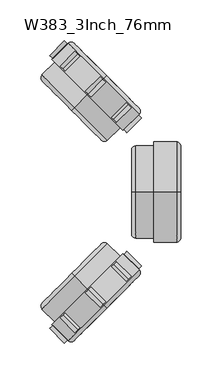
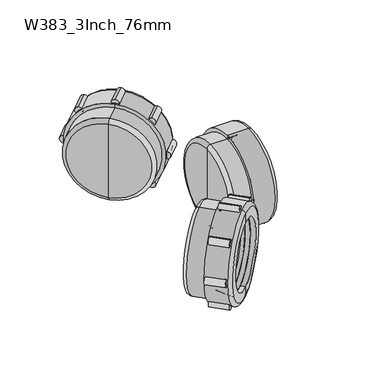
"""IFC4 building model written with IfcOpenShell, lengths in millimetres: pipe fitting geometry, Durapipe_PipeFitting_VulcatheneMechanical_DoubleWye_W38 : W383_3Inch_76mm."""

from ifc_helpers import new_model, si_unit, point, frame, frame_2d, origin, place, context, project, spatial, polyline, circle_curve, ellipse_curve, trimmed, segment, composite_curve, outline, extrude, source, transform, mapped, element, save
from ifc_brep_helpers import plane_surface, cylinder_surface, revolved_surface, advanced_brep


def w383_3inch_76mm_12d81fef(model_context):
    return source(origin(), model_context, "Body", "SolidModel", [
        advanced_brep(
        [(111.8701369, -162.7701369, -35.9917352), (115.1701369, -159.4701369, -31.3248304), (159.4701369, -115.1701369, 31.3248304), (162.7701369, -111.8701369, 35.9917352), (146.2158692, -99.7158692, 32.8804653), (99.7158692, -146.2158692, -32.8804653), (82.2503318, -128.7503318, -32.8804653), (128.7503318, -82.2503318, 32.8804653), (127.6503318, -83.3503318, 31.3248304), (83.3503318, -127.6503318, -31.3248304), (151.9040943, -107.6040943, 31.3248304), (107.6040943, -151.9040943, -31.3248304), (151.4540943, -108.0540943, 30.6884343), (108.0540943, -151.4540943, -30.6884343), (110.8567855, -155.1567855, -31.3248304), (111.3067855, -154.7067855, -30.6884343), (154.7067855, -111.3067855, 30.6884343), (155.1567855, -110.8567855, 31.3248304)],
        [
            (0, 1),
            (1, 2, circle_curve(frame((137.3201369, -137.3201369, 0.0), z_axis=(-0.7071067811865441, 0.7071067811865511, 0.0), x_axis=(0.5000000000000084, 0.49999999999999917, 0.7071067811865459)), 44.3)),
            (2, 3),
            (3, 0, circle_curve(frame((137.3201369, -137.3201369, 0.0), z_axis=(0.7071067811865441, -0.7071067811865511, 0.0), x_axis=(0.5000000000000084, 0.49999999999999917, 0.7071067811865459)), 50.9)),
            (2, 1, circle_curve(frame((137.3201369, -137.3201369, 0.0), z_axis=(-0.7071067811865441, 0.7071067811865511, 0.0), x_axis=(0.5000000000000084, 0.49999999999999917, 0.7071067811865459)), 44.3)),
            (0, 3, circle_curve(frame((137.3201369, -137.3201369, 0.0), z_axis=(0.7071067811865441, -0.7071067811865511, 0.0), x_axis=(0.5000000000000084, 0.49999999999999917, 0.7071067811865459)), 50.9)),
            (3, 4),
            (4, 5, circle_curve(frame((122.9658692, -122.9658692, 0.0), z_axis=(0.7071067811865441, -0.7071067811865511, 0.0), x_axis=(0.5000000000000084, 0.49999999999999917, 0.7071067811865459)), 46.5)),
            (5, 0),
            (5, 4, circle_curve(frame((122.9658692, -122.9658692, 0.0), z_axis=(0.7071067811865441, -0.7071067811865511, 0.0), x_axis=(0.5000000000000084, 0.49999999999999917, 0.7071067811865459)), 46.5)),
            (6, 5),
            (4, 7),
            (7, 6, circle_curve(frame((105.5003318, -105.5003318, 0.0), z_axis=(0.7071067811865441, -0.7071067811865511, 0.0), x_axis=(0.5000000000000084, 0.49999999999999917, 0.7071067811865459)), 46.5)),
            (6, 7, circle_curve(frame((105.5003318, -105.5003318, 0.0), z_axis=(0.7071067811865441, -0.7071067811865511, 0.0), x_axis=(0.5000000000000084, 0.49999999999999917, 0.7071067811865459)), 46.5)),
            (7, 8),
            (8, 9, circle_curve(frame((105.5003318, -105.5003318, 0.0), z_axis=(0.7071067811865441, -0.7071067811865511, 0.0), x_axis=(0.5000000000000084, 0.49999999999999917, 0.7071067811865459)), 44.3)),
            (9, 6),
            (9, 8, circle_curve(frame((105.5003318, -105.5003318, 0.0), z_axis=(0.7071067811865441, -0.7071067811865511, 0.0), x_axis=(0.5000000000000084, 0.49999999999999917, 0.7071067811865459)), 44.3)),
            (8, 10),
            (10, 11, circle_curve(frame((129.7540943, -129.7540943, 0.0), z_axis=(0.7071067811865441, -0.7071067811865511, 0.0), x_axis=(0.5000000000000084, 0.49999999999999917, 0.7071067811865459)), 44.3)),
            (11, 9),
            (11, 10, circle_curve(frame((129.7540943, -129.7540943, 0.0), z_axis=(0.7071067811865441, -0.7071067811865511, 0.0), x_axis=(0.5000000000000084, 0.49999999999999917, 0.7071067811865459)), 44.3)),
            (10, 12),
            (12, 13, circle_curve(frame((129.7540943, -129.7540943, 0.0), z_axis=(0.7071067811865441, -0.7071067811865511, 0.0), x_axis=(0.5000000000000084, 0.49999999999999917, 0.7071067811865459)), 43.4)),
            (13, 11),
            (13, 12, circle_curve(frame((129.7540943, -129.7540943, 0.0), z_axis=(0.7071067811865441, -0.7071067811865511, 0.0), x_axis=(0.5000000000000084, 0.49999999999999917, 0.7071067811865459)), 43.4)),
            (14, 15),
            (15, 16, circle_curve(frame((133.0067855, -133.0067855, 0.0), z_axis=(-0.7071067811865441, 0.7071067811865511, 0.0), x_axis=(0.5000000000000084, 0.49999999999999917, 0.7071067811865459)), 43.4)),
            (16, 17),
            (17, 14, circle_curve(frame((133.0067855, -133.0067855, 0.0), z_axis=(0.7071067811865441, -0.7071067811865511, 0.0), x_axis=(0.5000000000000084, 0.49999999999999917, 0.7071067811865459)), 44.3)),
            (16, 15, circle_curve(frame((133.0067855, -133.0067855, 0.0), z_axis=(-0.7071067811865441, 0.7071067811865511, 0.0), x_axis=(0.5000000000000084, 0.49999999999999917, 0.7071067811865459)), 43.4)),
            (14, 17, circle_curve(frame((133.0067855, -133.0067855, 0.0), z_axis=(0.7071067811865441, -0.7071067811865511, 0.0), x_axis=(0.5000000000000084, 0.49999999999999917, 0.7071067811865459)), 44.3)),
            (1, 14),
            (17, 2),
            (12, 16),
            (15, 13),
        ],
        [
            plane_surface(frame((137.3201369, -137.3201369, 0.0), z_axis=(0.7071067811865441, -0.707106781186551, 0.0), x_axis=(0.5000000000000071, 0.49999999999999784, 0.707106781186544))),
            revolved_surface(polyline([(162.7701369, -111.8701369, 35.9917352), (146.2158692, -99.7158692, 32.8804653)]), (140.8556708, -140.8556708, 0.0), (-0.7071067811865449, 0.7071067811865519, 0.0)),
            cylinder_surface(frame((104.0361571, -104.0361571, 0.0), z_axis=(-0.7071067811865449, 0.7071067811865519, 0.0), x_axis=(0.5000000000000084, 0.49999999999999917, 0.7071067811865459)), 46.5),
            plane_surface(frame((105.5003318, -105.5003318, 0.0), z_axis=(-0.7071067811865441, 0.707106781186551, 0.0), x_axis=(0.5000000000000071, 0.49999999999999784, 0.707106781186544))),
            revolved_surface(polyline([(127.65033180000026, -83.35033179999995, 31.324830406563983), (151.90409430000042, -107.60409430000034, 31.324830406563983)]), (103.0304142, -103.0304142, 0.0), (-0.7071067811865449, 0.7071067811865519, 0.0)),
            plane_surface(frame((129.7540943, -129.7540943, 0.0), z_axis=(-0.7071067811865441, 0.707106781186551, 0.0), x_axis=(0.5000000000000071, 0.49999999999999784, 0.707106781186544))),
            plane_surface(frame((133.0067855, -133.0067855, 0.0), z_axis=(0.7071067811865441, -0.707106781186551, 0.0), x_axis=(0.5000000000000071, 0.49999999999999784, 0.707106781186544))),
            revolved_surface(polyline([(155.1567855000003, -110.85678549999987, 31.324830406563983), (159.47013690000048, -115.17013690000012, 31.324830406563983)]), (140.8556708, -140.8556708, 0.0), (-0.7071067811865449, 0.7071067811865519, 0.0)),
            revolved_surface(polyline([(151.4540943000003, -108.05409429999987, 30.68843430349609), (154.70678550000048, -111.3067855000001, 30.68843430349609)]), (138.4276022, -138.4276022, 0.0), (-0.7071067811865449, 0.7071067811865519, 0.0)),
        ],
        [
            (0, [[1, 2, 3, 4]]),
            (0, [[5, -1, 6, -3]]),
            (1, [[7, 8, 9, -4]]),
            (1, [[-9, 10, -7, -6]]),
            (2, [[11, -8, 12, 13]]),
            (2, [[-10, -11, 14, -12]]),
            (3, [[15, 16, 17, -13]]),
            (3, [[-17, 18, -15, -14]]),
            (4, [[-16, 19, 20, 21]]),
            (4, [[22, -19, -18, -21]]),
            (5, [[23, 24, 25, -20]]),
            (5, [[-25, 26, -23, -22]]),
            (6, [[27, 28, 29, 30]]),
            (6, [[-29, 31, -27, 32]]),
            (7, [[33, -30, 34, -2]]),
            (7, [[-34, -32, -33, -5]]),
            (8, [[-24, 35, -28, 36]]),
            (8, [[-31, -35, -26, -36]]),
        ],
    ),
        advanced_brep(
        [(118.4403858, -118.4403858, -61.5), (138.2393757, -138.2393757, -61.5), (138.2393757, -138.2393757, 61.5), (118.4403858, -118.4403858, 61.5), (118.4403858, -118.4403858, -56.5), (118.4403858, -118.4403858, 56.5), (141.7749096, -141.7749096, -56.5), (141.7749096, -141.7749096, -45.0), (141.7749096, -141.7749096, 45.0), (141.7749096, -141.7749096, 56.5), (137.3201369, -137.3201369, -53.0), (118.4403858, -118.4403858, -53.0), (118.4403858, -118.4403858, 53.0), (137.3201369, -137.3201369, 53.0), (137.3201369, -137.3201369, -45.0), (137.3201369, -137.3201369, 45.0), (102.8840367, -102.8840367, -56.5), (102.8840367, -102.8840367, 56.5), (99.3485028, -99.3485028, -51.5), (99.3485028, -99.3485028, 51.5), (99.3485028, -99.3485028, 0.0), (118.4403858, -118.4403858, 0.0)],
        [
            (0, 1),
            (1, 2, circle_curve(frame((138.2393757, -138.2393757, 0.0), z_axis=(-0.7071067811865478, 0.7071067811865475, 0.0), x_axis=(0.0, 0.0, 1.0000000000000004)), 61.5)),
            (2, 3),
            (3, 0, circle_curve(frame((118.4403858, -118.4403858, 0.0), z_axis=(0.7071067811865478, -0.7071067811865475, 0.0), x_axis=(0.0, 0.0, 1.0000000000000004)), 61.5)),
            (2, 1, circle_curve(frame((138.2393757, -138.2393757, 0.0), z_axis=(-0.7071067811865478, 0.7071067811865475, 0.0), x_axis=(0.0, 0.0, 1.0000000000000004)), 61.5)),
            (0, 3, circle_curve(frame((118.4403858, -118.4403858, 0.0), z_axis=(0.7071067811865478, -0.7071067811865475, 0.0), x_axis=(0.0, 0.0, 1.0000000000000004)), 61.5)),
            (4, 0),
            (3, 5),
            (5, 4, circle_curve(frame((118.4403858, -118.4403858, 0.0), z_axis=(0.7071067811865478, -0.7071067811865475, 0.0), x_axis=(0.0, 0.0, 1.0000000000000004)), 56.5)),
            (4, 5, circle_curve(frame((118.4403858, -118.4403858, 0.0), z_axis=(0.7071067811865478, -0.7071067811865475, 0.0), x_axis=(0.0, 0.0, 1.0000000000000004)), 56.5)),
            (6, 7),
            (7, 8, circle_curve(frame((141.7749096, -141.7749096, 0.0), z_axis=(-0.7071067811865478, 0.7071067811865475, 0.0), x_axis=(0.0, 0.0, 1.0000000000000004)), 45.0)),
            (8, 9),
            (9, 6, circle_curve(frame((141.7749096, -141.7749096, 0.0), z_axis=(0.7071067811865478, -0.7071067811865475, 0.0), x_axis=(0.0, 0.0, 1.0000000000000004)), 56.5)),
            (8, 7, circle_curve(frame((141.7749096, -141.7749096, 0.0), z_axis=(-0.7071067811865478, 0.7071067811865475, 0.0), x_axis=(0.0, 0.0, 1.0000000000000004)), 45.0)),
            (6, 9, circle_curve(frame((141.7749096, -141.7749096, 0.0), z_axis=(0.7071067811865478, -0.7071067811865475, 0.0), x_axis=(0.0, 0.0, 1.0000000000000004)), 56.5)),
            (1, 6, circle_curve(frame((138.2393757, -138.2393757, -56.5), z_axis=(-0.7071067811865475, -0.7071067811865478, 0.0), x_axis=(0.7071067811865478, -0.7071067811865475, 0.0)), 5.0)),
            (9, 2, circle_curve(frame((138.2393757, -138.2393757, 56.5), z_axis=(-0.7071067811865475, -0.7071067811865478, 0.0), x_axis=(0.7071067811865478, -0.7071067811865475, 0.0)), 5.0)),
            (10, 11),
            (11, 12, circle_curve(frame((118.4403858, -118.4403858, 0.0), z_axis=(-0.7071067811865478, 0.7071067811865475, 0.0), x_axis=(0.0, 0.0, 1.0000000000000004)), 53.0)),
            (12, 13),
            (13, 10, circle_curve(frame((137.3201369, -137.3201369, 0.0), z_axis=(0.7071067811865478, -0.7071067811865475, 0.0), x_axis=(0.0, 0.0, 1.0000000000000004)), 53.0)),
            (12, 11, circle_curve(frame((118.4403858, -118.4403858, 0.0), z_axis=(-0.7071067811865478, 0.7071067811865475, 0.0), x_axis=(0.0, 0.0, 1.0000000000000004)), 53.0)),
            (10, 13, circle_curve(frame((137.3201369, -137.3201369, 0.0), z_axis=(0.7071067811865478, -0.7071067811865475, 0.0), x_axis=(0.0, 0.0, 1.0000000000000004)), 53.0)),
            (14, 10),
            (13, 15),
            (15, 14, circle_curve(frame((137.3201369, -137.3201369, 0.0), z_axis=(0.7071067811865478, -0.7071067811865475, 0.0), x_axis=(0.0, 0.0, 1.0000000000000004)), 45.0)),
            (14, 15, circle_curve(frame((137.3201369, -137.3201369, 0.0), z_axis=(0.7071067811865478, -0.7071067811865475, 0.0), x_axis=(0.0, 0.0, 1.0000000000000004)), 45.0)),
            (7, 14),
            (15, 8),
            (16, 4),
            (5, 17),
            (17, 16, circle_curve(frame((102.8840367, -102.8840367, 0.0), z_axis=(0.7071067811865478, -0.7071067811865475, 0.0), x_axis=(0.0, 0.0, 1.0000000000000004)), 56.5)),
            (16, 17, circle_curve(frame((102.8840367, -102.8840367, 0.0), z_axis=(0.7071067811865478, -0.7071067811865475, 0.0), x_axis=(0.0, 0.0, 1.0000000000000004)), 56.5)),
            (18, 16, circle_curve(frame((102.8840367, -102.8840367, -51.5), z_axis=(-0.7071067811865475, -0.7071067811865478, 0.0), x_axis=(0.7071067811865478, -0.7071067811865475, 0.0)), 5.0)),
            (17, 19, circle_curve(frame((102.8840367, -102.8840367, 51.5), z_axis=(-0.7071067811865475, -0.7071067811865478, 0.0), x_axis=(0.7071067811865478, -0.7071067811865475, 0.0)), 5.0)),
            (19, 18, circle_curve(frame((99.3485028, -99.3485028, 0.0), z_axis=(0.7071067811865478, -0.7071067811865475, 0.0), x_axis=(0.0, 0.0, 1.0000000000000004)), 51.5)),
            (18, 19, circle_curve(frame((99.3485028, -99.3485028, 0.0), z_axis=(0.7071067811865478, -0.7071067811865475, 0.0), x_axis=(0.0, 0.0, 1.0000000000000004)), 51.5)),
            (20, 18),
            (19, 20),
            (11, 21),
            (21, 12),
        ],
        [
            cylinder_surface(frame((1245.4284595, -1245.4284595, 0.0), z_axis=(-0.7071067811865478, 0.7071067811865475, 0.0), x_axis=(0.0, 0.0, 1.0000000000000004)), 61.5),
            plane_surface(frame((118.4403858, -118.4403858, 0.0), z_axis=(-0.7071067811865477, 0.7071067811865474, 0.0), x_axis=(0.0, 0.0, 1.0))),
            plane_surface(frame((141.7749096, -141.7749096, 0.0), z_axis=(0.7071067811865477, -0.7071067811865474, 0.0), x_axis=(0.0, 0.0, 1.0))),
            revolved_surface(trimmed(ellipse_curve(frame((138.2393757, -138.2393757, 56.5), z_axis=(-0.7071067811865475, -0.7071067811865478, 0.0), x_axis=(0.7071067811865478, -0.7071067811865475, 0.0)), 5.0, 5.0), [point((141.7749096, -141.7749096, 56.5))], [point((138.2393757, -138.2393757, 61.5))], True, "CARTESIAN"), (1245.4284595, -1245.4284595, 0.0), (-0.7071067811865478, 0.7071067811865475, 0.0)),
            revolved_surface(polyline([(118.44038579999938, -118.44038580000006, 53.00000000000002), (137.3201368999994, -137.32013690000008, 53.00000000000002)]), (1245.4284595, -1245.4284595, 0.0), (-0.7071067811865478, 0.7071067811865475, 0.0)),
            plane_surface(frame((137.3201369, -137.3201369, 0.0), z_axis=(-0.7071067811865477, 0.7071067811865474, 0.0), x_axis=(0.0, 0.0, 1.0))),
            revolved_surface(polyline([(137.3201368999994, -137.32013690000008, 45.00000000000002), (141.77490959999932, -141.77490959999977, 45.00000000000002)]), (1245.4284595, -1245.4284595, 0.0), (-0.7071067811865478, 0.7071067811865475, 0.0)),
            cylinder_surface(frame((1245.4284595, -1245.4284595, 0.0), z_axis=(-0.7071067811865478, 0.7071067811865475, 0.0), x_axis=(0.0, 0.0, 1.0000000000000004)), 56.5),
            revolved_surface(trimmed(ellipse_curve(frame((102.8840367, -102.8840367, 51.5), z_axis=(-0.7071067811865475, -0.7071067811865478, 0.0), x_axis=(0.7071067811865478, -0.7071067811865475, 0.0)), 5.0, 5.0), [point((102.8840367, -102.8840367, 56.5))], [point((99.3485028, -99.3485028, 51.5))], True, "CARTESIAN"), (1245.4284595, -1245.4284595, 0.0), (-0.7071067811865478, 0.7071067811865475, 0.0)),
            plane_surface(frame((99.3485028, -99.3485028, 0.0), z_axis=(-0.7071067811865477, 0.7071067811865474, 0.0), x_axis=(0.0, 0.0, 1.0))),
            plane_surface(frame((118.4403858, -118.4403858, 0.0), z_axis=(0.7071067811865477, -0.7071067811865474, 0.0), x_axis=(0.0, 0.0, 1.0))),
        ],
        [
            (0, [[1, 2, 3, 4]]),
            (0, [[-3, 5, -1, 6]]),
            (1, [[7, -4, 8, 9]]),
            (1, [[-8, -6, -7, 10]]),
            (2, [[11, 12, 13, 14]]),
            (2, [[-13, 15, -11, 16]]),
            (3, [[17, -14, 18, -2]]),
            (3, [[-18, -16, -17, -5]]),
            (4, [[19, 20, 21, 22]]),
            (4, [[-21, 23, -19, 24]]),
            (5, [[25, -22, 26, 27]]),
            (5, [[-26, -24, -25, 28]]),
            (6, [[29, -27, 30, -12]]),
            (6, [[-30, -28, -29, -15]]),
            (7, [[31, -9, 32, 33]]),
            (7, [[-32, -10, -31, 34]]),
            (8, [[35, -33, 36, 37]]),
            (8, [[-36, -34, -35, 38]]),
            (9, [[39, -37, 40]]),
            (9, [[-40, -38, -39]]),
            (10, [[41, 42, -20]]),
            (10, [[-42, -41, -23]]),
        ],
    ),
        extrude(outline(composite_curve([segment(trimmed(circle_curve(frame_2d((0.0, 5.0)), 5.0), [point((0.0, 10.0))], [point((0.0, 0.0))], False, "CARTESIAN"), True, "CONTINUOUS"), segment(trimmed(circle_curve(frame_2d((0.0, 5.0)), 5.0), [point((0.0, 0.0))], [point((0.0, 10.0))], False, "CARTESIAN"), True, "CONTINUOUS")], self_intersect=False)), frame((180.8072039, -93.8330699, 5.0), z_axis=(-0.7071067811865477, 0.7071067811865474, 0.0), x_axis=(0.7071067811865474, 0.7071067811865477, 0.0)), (0.0, 0.0, 1.0), 25.2),
        extrude(outline(composite_curve([segment(trimmed(circle_curve(frame_2d((-18.0129329, -38.487067)), 5.0), [point((-18.0129329, -33.487067))], [point((-18.0129329, -43.487067))], False, "CARTESIAN"), True, "CONTINUOUS"), segment(trimmed(circle_curve(frame_2d((-18.0129329, -38.487067)), 5.0), [point((-18.0129329, -43.487067))], [point((-18.0129329, -33.487067))], False, "CARTESIAN"), True, "CONTINUOUS")], self_intersect=False)), frame((180.8072039, -93.8330699, 5.0), z_axis=(-0.7071067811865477, 0.7071067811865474, 0.0), x_axis=(0.7071067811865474, 0.7071067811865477, 0.0)), (0.0, 0.0, 1.0), 25.2),
        extrude(outline(composite_curve([segment(trimmed(circle_curve(frame_2d((-61.4999999, -56.5)), 5.0), [point((-61.4999999, -51.5))], [point((-61.4999999, -61.5))], False, "CARTESIAN"), True, "CONTINUOUS"), segment(trimmed(circle_curve(frame_2d((-61.4999999, -56.5)), 5.0), [point((-61.4999999, -61.5))], [point((-61.4999999, -51.5))], False, "CARTESIAN"), True, "CONTINUOUS")], self_intersect=False)), frame((180.8072039, -93.8330699, 5.0), z_axis=(-0.7071067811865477, 0.7071067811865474, 0.0), x_axis=(0.7071067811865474, 0.7071067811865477, 0.0)), (0.0, 0.0, 1.0), 25.2),
        extrude(outline(composite_curve([segment(trimmed(circle_curve(frame_2d((-104.987067, -38.487067)), 5.0), [point((-104.987067, -33.487067))], [point((-104.987067, -43.487067))], False, "CARTESIAN"), True, "CONTINUOUS"), segment(trimmed(circle_curve(frame_2d((-104.987067, -38.487067)), 5.0), [point((-104.987067, -43.487067))], [point((-104.987067, -33.487067))], False, "CARTESIAN"), True, "CONTINUOUS")], self_intersect=False)), frame((180.8072039, -93.8330699, 5.0), z_axis=(-0.7071067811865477, 0.7071067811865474, 0.0), x_axis=(0.7071067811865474, 0.7071067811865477, 0.0)), (0.0, 0.0, 1.0), 25.2),
        extrude(outline(composite_curve([segment(trimmed(circle_curve(frame_2d((-122.9999999, 5.0)), 5.0), [point((-122.9999999, 10.0))], [point((-122.9999999, 0.0))], False, "CARTESIAN"), True, "CONTINUOUS"), segment(trimmed(circle_curve(frame_2d((-122.9999999, 5.0)), 5.0), [point((-122.9999999, 0.0))], [point((-122.9999999, 10.0))], False, "CARTESIAN"), True, "CONTINUOUS")], self_intersect=False)), frame((180.8072039, -93.8330699, 5.0), z_axis=(-0.7071067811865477, 0.7071067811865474, 0.0), x_axis=(0.7071067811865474, 0.7071067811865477, 0.0)), (0.0, 0.0, 1.0), 25.2),
        extrude(outline(composite_curve([segment(trimmed(circle_curve(frame_2d((-104.987067, 48.487067)), 5.0), [point((-104.987067, 53.487067))], [point((-104.987067, 43.487067))], False, "CARTESIAN"), True, "CONTINUOUS"), segment(trimmed(circle_curve(frame_2d((-104.987067, 48.487067)), 5.0), [point((-104.987067, 43.487067))], [point((-104.987067, 53.487067))], False, "CARTESIAN"), True, "CONTINUOUS")], self_intersect=False)), frame((180.8072039, -93.8330699, 5.0), z_axis=(-0.7071067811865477, 0.7071067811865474, 0.0), x_axis=(0.7071067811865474, 0.7071067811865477, 0.0)), (0.0, 0.0, 1.0), 25.2),
        extrude(outline(composite_curve([segment(trimmed(circle_curve(frame_2d((-61.4999999, 66.5)), 5.0), [point((-61.4999999, 71.5))], [point((-61.4999999, 61.5))], False, "CARTESIAN"), True, "CONTINUOUS"), segment(trimmed(circle_curve(frame_2d((-61.4999999, 66.5)), 5.0), [point((-61.4999999, 61.5))], [point((-61.4999999, 71.5))], False, "CARTESIAN"), True, "CONTINUOUS")], self_intersect=False)), frame((180.8072039, -93.8330699, 5.0), z_axis=(-0.7071067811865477, 0.7071067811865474, 0.0), x_axis=(0.7071067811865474, 0.7071067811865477, 0.0)), (0.0, 0.0, 1.0), 25.2),
        extrude(outline(composite_curve([segment(trimmed(circle_curve(frame_2d((-18.0129329, 48.487067)), 5.0), [point((-18.0129329, 53.487067))], [point((-18.0129329, 43.487067))], False, "CARTESIAN"), True, "CONTINUOUS"), segment(trimmed(circle_curve(frame_2d((-18.0129329, 48.487067)), 5.0), [point((-18.0129329, 43.487067))], [point((-18.0129329, 53.487067))], False, "CARTESIAN"), True, "CONTINUOUS")], self_intersect=False)), frame((180.8072039, -93.8330699, 5.0), z_axis=(-0.7071067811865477, 0.7071067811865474, 0.0), x_axis=(0.7071067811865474, 0.7071067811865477, 0.0)), (0.0, 0.0, 1.0), 25.2),
        advanced_brep(
        [(162.7701369, 111.8701369, -35.9917352), (159.4701369, 115.1701369, -31.3248304), (115.1701369, 159.4701369, 31.3248304), (111.8701369, 162.7701369, 35.9917352), (99.7158692, 146.2158692, 32.8804653), (146.2158692, 99.7158692, -32.8804653), (128.7503318, 82.2503318, -32.8804653), (82.2503318, 128.7503318, 32.8804653), (83.3503318, 127.6503318, 31.3248304), (127.6503318, 83.3503318, -31.3248304), (107.6040943, 151.9040943, 31.3248304), (151.9040943, 107.6040943, -31.3248304), (108.0540943, 151.4540943, 30.6884343), (151.4540943, 108.0540943, -30.6884343), (155.1567855, 110.8567855, -31.3248304), (154.7067855, 111.3067855, -30.6884343), (111.3067855, 154.7067855, 30.6884343), (110.8567855, 155.1567855, 31.3248304)],
        [
            (0, 1),
            (1, 2, circle_curve(frame((137.3201369, 137.3201369, 0.0), z_axis=(-0.7071067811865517, -0.7071067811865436, 0.0), x_axis=(-0.4999999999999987, 0.5000000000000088, 0.7071067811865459)), 44.3)),
            (2, 3),
            (3, 0, circle_curve(frame((137.3201369, 137.3201369, 0.0), z_axis=(0.7071067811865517, 0.7071067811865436, 0.0), x_axis=(-0.4999999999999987, 0.5000000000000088, 0.7071067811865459)), 50.9)),
            (2, 1, circle_curve(frame((137.3201369, 137.3201369, 0.0), z_axis=(-0.7071067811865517, -0.7071067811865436, 0.0), x_axis=(-0.4999999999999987, 0.5000000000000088, 0.7071067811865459)), 44.3)),
            (0, 3, circle_curve(frame((137.3201369, 137.3201369, 0.0), z_axis=(0.7071067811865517, 0.7071067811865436, 0.0), x_axis=(-0.4999999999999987, 0.5000000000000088, 0.7071067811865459)), 50.9)),
            (3, 4),
            (4, 5, circle_curve(frame((122.9658692, 122.9658692, 0.0), z_axis=(0.7071067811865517, 0.7071067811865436, 0.0), x_axis=(-0.4999999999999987, 0.5000000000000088, 0.7071067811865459)), 46.5)),
            (5, 0),
            (5, 4, circle_curve(frame((122.9658692, 122.9658692, 0.0), z_axis=(0.7071067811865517, 0.7071067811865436, 0.0), x_axis=(-0.4999999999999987, 0.5000000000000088, 0.7071067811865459)), 46.5)),
            (6, 5),
            (4, 7),
            (7, 6, circle_curve(frame((105.5003318, 105.5003318, 0.0), z_axis=(0.7071067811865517, 0.7071067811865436, 0.0), x_axis=(-0.4999999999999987, 0.5000000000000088, 0.7071067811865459)), 46.5)),
            (6, 7, circle_curve(frame((105.5003318, 105.5003318, 0.0), z_axis=(0.7071067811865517, 0.7071067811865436, 0.0), x_axis=(-0.4999999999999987, 0.5000000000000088, 0.7071067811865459)), 46.5)),
            (7, 8),
            (8, 9, circle_curve(frame((105.5003318, 105.5003318, 0.0), z_axis=(0.7071067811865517, 0.7071067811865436, 0.0), x_axis=(-0.4999999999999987, 0.5000000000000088, 0.7071067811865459)), 44.3)),
            (9, 6),
            (9, 8, circle_curve(frame((105.5003318, 105.5003318, 0.0), z_axis=(0.7071067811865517, 0.7071067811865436, 0.0), x_axis=(-0.4999999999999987, 0.5000000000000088, 0.7071067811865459)), 44.3)),
            (8, 10),
            (10, 11, circle_curve(frame((129.7540943, 129.7540943, 0.0), z_axis=(0.7071067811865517, 0.7071067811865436, 0.0), x_axis=(-0.4999999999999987, 0.5000000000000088, 0.7071067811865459)), 44.3)),
            (11, 9),
            (11, 10, circle_curve(frame((129.7540943, 129.7540943, 0.0), z_axis=(0.7071067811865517, 0.7071067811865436, 0.0), x_axis=(-0.4999999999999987, 0.5000000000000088, 0.7071067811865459)), 44.3)),
            (10, 12),
            (12, 13, circle_curve(frame((129.7540943, 129.7540943, 0.0), z_axis=(0.7071067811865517, 0.7071067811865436, 0.0), x_axis=(-0.4999999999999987, 0.5000000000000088, 0.7071067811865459)), 43.4)),
            (13, 11),
            (13, 12, circle_curve(frame((129.7540943, 129.7540943, 0.0), z_axis=(0.7071067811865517, 0.7071067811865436, 0.0), x_axis=(-0.4999999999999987, 0.5000000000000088, 0.7071067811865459)), 43.4)),
            (14, 15),
            (15, 16, circle_curve(frame((133.0067855, 133.0067855, 0.0), z_axis=(-0.7071067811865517, -0.7071067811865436, 0.0), x_axis=(-0.4999999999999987, 0.5000000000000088, 0.7071067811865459)), 43.4)),
            (16, 17),
            (17, 14, circle_curve(frame((133.0067855, 133.0067855, 0.0), z_axis=(0.7071067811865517, 0.7071067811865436, 0.0), x_axis=(-0.4999999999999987, 0.5000000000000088, 0.7071067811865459)), 44.3)),
            (16, 15, circle_curve(frame((133.0067855, 133.0067855, 0.0), z_axis=(-0.7071067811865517, -0.7071067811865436, 0.0), x_axis=(-0.4999999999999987, 0.5000000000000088, 0.7071067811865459)), 43.4)),
            (14, 17, circle_curve(frame((133.0067855, 133.0067855, 0.0), z_axis=(0.7071067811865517, 0.7071067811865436, 0.0), x_axis=(-0.4999999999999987, 0.5000000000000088, 0.7071067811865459)), 44.3)),
            (1, 14),
            (17, 2),
            (12, 16),
            (15, 13),
        ],
        [
            plane_surface(frame((137.3201369, 137.3201369, 0.0), z_axis=(0.7071067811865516, 0.7071067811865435, 0.0), x_axis=(-0.4999999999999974, 0.5000000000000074, 0.707106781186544))),
            revolved_surface(polyline([(111.8701369, 162.7701369, 35.9917352), (99.7158692, 146.2158692, 32.8804653)]), (140.8556708, 140.8556708, 0.0), (-0.7071067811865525, -0.7071067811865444, 0.0)),
            cylinder_surface(frame((104.0361571, 104.0361571, 0.0), z_axis=(-0.7071067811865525, -0.7071067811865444, 0.0), x_axis=(-0.4999999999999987, 0.5000000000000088, 0.7071067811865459)), 46.5),
            plane_surface(frame((105.5003318, 105.5003318, 0.0), z_axis=(-0.7071067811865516, -0.7071067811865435, 0.0), x_axis=(-0.4999999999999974, 0.5000000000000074, 0.707106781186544))),
            revolved_surface(polyline([(83.35033179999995, 127.65033180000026, 31.324830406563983), (107.6040943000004, 151.90409430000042, 31.324830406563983)]), (103.0304142, 103.0304142, 0.0), (-0.7071067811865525, -0.7071067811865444, 0.0)),
            plane_surface(frame((129.7540943, 129.7540943, 0.0), z_axis=(-0.7071067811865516, -0.7071067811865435, 0.0), x_axis=(-0.4999999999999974, 0.5000000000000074, 0.707106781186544))),
            plane_surface(frame((133.0067855, 133.0067855, 0.0), z_axis=(0.7071067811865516, 0.7071067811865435, 0.0), x_axis=(-0.4999999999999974, 0.5000000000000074, 0.707106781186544))),
            revolved_surface(polyline([(110.85678549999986, 155.15678550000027, 31.324830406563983), (115.17013690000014, 159.4701369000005, 31.324830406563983)]), (140.8556708, 140.8556708, 0.0), (-0.7071067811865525, -0.7071067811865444, 0.0)),
            revolved_surface(polyline([(108.05409429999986, 151.4540943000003, 30.68843430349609), (111.30678550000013, 154.70678550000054, 30.68843430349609)]), (138.4276022, 138.4276022, 0.0), (-0.7071067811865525, -0.7071067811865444, 0.0)),
        ],
        [
            (0, [[1, 2, 3, 4]]),
            (0, [[5, -1, 6, -3]]),
            (1, [[7, 8, 9, -4]]),
            (1, [[-9, 10, -7, -6]]),
            (2, [[11, -8, 12, 13]]),
            (2, [[-10, -11, 14, -12]]),
            (3, [[15, 16, 17, -13]]),
            (3, [[-17, 18, -15, -14]]),
            (4, [[-16, 19, 20, 21]]),
            (4, [[22, -19, -18, -21]]),
            (5, [[23, 24, 25, -20]]),
            (5, [[-25, 26, -23, -22]]),
            (6, [[27, 28, 29, 30]]),
            (6, [[-29, 31, -27, 32]]),
            (7, [[33, -30, 34, -2]]),
            (7, [[-34, -32, -33, -5]]),
            (8, [[-24, 35, -28, 36]]),
            (8, [[-31, -35, -26, -36]]),
        ],
    ),
        advanced_brep(
        [(118.4403858, 118.4403858, -61.5), (138.2393757, 138.2393757, -61.5), (138.2393757, 138.2393757, 61.5), (118.4403858, 118.4403858, 61.5), (118.4403858, 118.4403858, -56.5), (118.4403858, 118.4403858, 56.5), (141.7749096, 141.7749096, -56.5), (141.7749096, 141.7749096, -45.0), (141.7749096, 141.7749096, 45.0), (141.7749096, 141.7749096, 56.5), (137.3201369, 137.3201369, -53.0), (118.4403858, 118.4403858, -53.0), (118.4403858, 118.4403858, 53.0), (137.3201369, 137.3201369, 53.0), (137.3201369, 137.3201369, -45.0), (137.3201369, 137.3201369, 45.0), (102.8840367, 102.8840367, -56.5), (102.8840367, 102.8840367, 56.5), (99.3485028, 99.3485028, -51.5), (99.3485028, 99.3485028, 51.5), (99.3485028, 99.3485028, 0.0), (118.4403858, 118.4403858, 0.0)],
        [
            (0, 1),
            (1, 2, circle_curve(frame((138.2393757, 138.2393757, 0.0), z_axis=(-0.707106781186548, -0.7071067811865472, 0.0), x_axis=(0.0, 0.0, 1.0000000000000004)), 61.5)),
            (2, 3),
            (3, 0, circle_curve(frame((118.4403858, 118.4403858, 0.0), z_axis=(0.707106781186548, 0.7071067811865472, 0.0), x_axis=(0.0, 0.0, 1.0000000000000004)), 61.5)),
            (2, 1, circle_curve(frame((138.2393757, 138.2393757, 0.0), z_axis=(-0.707106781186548, -0.7071067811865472, 0.0), x_axis=(0.0, 0.0, 1.0000000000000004)), 61.5)),
            (0, 3, circle_curve(frame((118.4403858, 118.4403858, 0.0), z_axis=(0.707106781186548, 0.7071067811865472, 0.0), x_axis=(0.0, 0.0, 1.0000000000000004)), 61.5)),
            (4, 0),
            (3, 5),
            (5, 4, circle_curve(frame((118.4403858, 118.4403858, 0.0), z_axis=(0.707106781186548, 0.7071067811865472, 0.0), x_axis=(0.0, 0.0, 1.0000000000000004)), 56.5)),
            (4, 5, circle_curve(frame((118.4403858, 118.4403858, 0.0), z_axis=(0.707106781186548, 0.7071067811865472, 0.0), x_axis=(0.0, 0.0, 1.0000000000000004)), 56.5)),
            (6, 7),
            (7, 8, circle_curve(frame((141.7749096, 141.7749096, 0.0), z_axis=(-0.707106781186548, -0.7071067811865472, 0.0), x_axis=(0.0, 0.0, 1.0000000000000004)), 45.0)),
            (8, 9),
            (9, 6, circle_curve(frame((141.7749096, 141.7749096, 0.0), z_axis=(0.707106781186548, 0.7071067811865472, 0.0), x_axis=(0.0, 0.0, 1.0000000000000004)), 56.5)),
            (8, 7, circle_curve(frame((141.7749096, 141.7749096, 0.0), z_axis=(-0.707106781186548, -0.7071067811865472, 0.0), x_axis=(0.0, 0.0, 1.0000000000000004)), 45.0)),
            (6, 9, circle_curve(frame((141.7749096, 141.7749096, 0.0), z_axis=(0.707106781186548, 0.7071067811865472, 0.0), x_axis=(0.0, 0.0, 1.0000000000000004)), 56.5)),
            (1, 6, circle_curve(frame((138.2393757, 138.2393757, -56.5), z_axis=(0.7071067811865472, -0.707106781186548, 0.0), x_axis=(0.707106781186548, 0.7071067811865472, 0.0)), 5.0)),
            (9, 2, circle_curve(frame((138.2393757, 138.2393757, 56.5), z_axis=(0.7071067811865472, -0.707106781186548, 0.0), x_axis=(0.707106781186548, 0.7071067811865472, 0.0)), 5.0)),
            (10, 11),
            (11, 12, circle_curve(frame((118.4403858, 118.4403858, 0.0), z_axis=(-0.707106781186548, -0.7071067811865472, 0.0), x_axis=(0.0, 0.0, 1.0000000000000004)), 53.0)),
            (12, 13),
            (13, 10, circle_curve(frame((137.3201369, 137.3201369, 0.0), z_axis=(0.707106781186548, 0.7071067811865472, 0.0), x_axis=(0.0, 0.0, 1.0000000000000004)), 53.0)),
            (12, 11, circle_curve(frame((118.4403858, 118.4403858, 0.0), z_axis=(-0.707106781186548, -0.7071067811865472, 0.0), x_axis=(0.0, 0.0, 1.0000000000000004)), 53.0)),
            (10, 13, circle_curve(frame((137.3201369, 137.3201369, 0.0), z_axis=(0.707106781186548, 0.7071067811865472, 0.0), x_axis=(0.0, 0.0, 1.0000000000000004)), 53.0)),
            (14, 10),
            (13, 15),
            (15, 14, circle_curve(frame((137.3201369, 137.3201369, 0.0), z_axis=(0.707106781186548, 0.7071067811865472, 0.0), x_axis=(0.0, 0.0, 1.0000000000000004)), 45.0)),
            (14, 15, circle_curve(frame((137.3201369, 137.3201369, 0.0), z_axis=(0.707106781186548, 0.7071067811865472, 0.0), x_axis=(0.0, 0.0, 1.0000000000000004)), 45.0)),
            (7, 14),
            (15, 8),
            (16, 4),
            (5, 17),
            (17, 16, circle_curve(frame((102.8840367, 102.8840367, 0.0), z_axis=(0.707106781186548, 0.7071067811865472, 0.0), x_axis=(0.0, 0.0, 1.0000000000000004)), 56.5)),
            (16, 17, circle_curve(frame((102.8840367, 102.8840367, 0.0), z_axis=(0.707106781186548, 0.7071067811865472, 0.0), x_axis=(0.0, 0.0, 1.0000000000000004)), 56.5)),
            (18, 16, circle_curve(frame((102.8840367, 102.8840367, -51.5), z_axis=(0.7071067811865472, -0.707106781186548, 0.0), x_axis=(0.707106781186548, 0.7071067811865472, 0.0)), 5.0)),
            (17, 19, circle_curve(frame((102.8840367, 102.8840367, 51.5), z_axis=(0.7071067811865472, -0.707106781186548, 0.0), x_axis=(0.707106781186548, 0.7071067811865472, 0.0)), 5.0)),
            (19, 18, circle_curve(frame((99.3485028, 99.3485028, 0.0), z_axis=(0.707106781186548, 0.7071067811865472, 0.0), x_axis=(0.0, 0.0, 1.0000000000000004)), 51.5)),
            (18, 19, circle_curve(frame((99.3485028, 99.3485028, 0.0), z_axis=(0.707106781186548, 0.7071067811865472, 0.0), x_axis=(0.0, 0.0, 1.0000000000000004)), 51.5)),
            (20, 18),
            (19, 20),
            (11, 21),
            (21, 12),
        ],
        [
            cylinder_surface(frame((1245.4284595, 1245.4284595, 0.0), z_axis=(-0.707106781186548, -0.7071067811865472, 0.0), x_axis=(0.0, 0.0, 1.0000000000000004)), 61.5),
            plane_surface(frame((118.4403858, 118.4403858, 0.0), z_axis=(-0.7071067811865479, -0.7071067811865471, 0.0), x_axis=(0.0, 0.0, 1.0))),
            plane_surface(frame((141.7749096, 141.7749096, 0.0), z_axis=(0.7071067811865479, 0.7071067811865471, 0.0), x_axis=(0.0, 0.0, 1.0))),
            revolved_surface(trimmed(ellipse_curve(frame((138.2393757, 138.2393757, 56.5), z_axis=(0.7071067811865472, -0.707106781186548, 0.0), x_axis=(0.707106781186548, 0.7071067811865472, 0.0)), 5.0, 5.0), [point((141.7749096, 141.7749096, 56.5))], [point((138.2393757, 138.2393757, 61.5))], True, "CARTESIAN"), (1245.4284595, 1245.4284595, 0.0), (-0.707106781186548, -0.7071067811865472, 0.0)),
            revolved_surface(polyline([(118.44038579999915, 118.44038580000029, 53.00000000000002), (137.32013689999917, 137.3201369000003, 53.00000000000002)]), (1245.4284595, 1245.4284595, 0.0), (-0.707106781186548, -0.7071067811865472, 0.0)),
            plane_surface(frame((137.3201369, 137.3201369, 0.0), z_axis=(-0.7071067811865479, -0.7071067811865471, 0.0), x_axis=(0.0, 0.0, 1.0))),
            revolved_surface(polyline([(137.32013689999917, 137.3201369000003, 45.00000000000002), (141.7749095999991, 141.77490960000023, 45.00000000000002)]), (1245.4284595, 1245.4284595, 0.0), (-0.707106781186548, -0.7071067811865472, 0.0)),
            cylinder_surface(frame((1245.4284595, 1245.4284595, 0.0), z_axis=(-0.707106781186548, -0.7071067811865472, 0.0), x_axis=(0.0, 0.0, 1.0000000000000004)), 56.5),
            revolved_surface(trimmed(ellipse_curve(frame((102.8840367, 102.8840367, 51.5), z_axis=(0.7071067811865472, -0.707106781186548, 0.0), x_axis=(0.707106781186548, 0.7071067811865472, 0.0)), 5.0, 5.0), [point((102.8840367, 102.8840367, 56.5))], [point((99.3485028, 99.3485028, 51.5))], True, "CARTESIAN"), (1245.4284595, 1245.4284595, 0.0), (-0.707106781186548, -0.7071067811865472, 0.0)),
            plane_surface(frame((99.3485028, 99.3485028, 0.0), z_axis=(-0.7071067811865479, -0.7071067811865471, 0.0), x_axis=(0.0, 0.0, 1.0))),
            plane_surface(frame((118.4403858, 118.4403858, 0.0), z_axis=(0.7071067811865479, 0.7071067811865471, 0.0), x_axis=(0.0, 0.0, 1.0))),
        ],
        [
            (0, [[1, 2, 3, 4]]),
            (0, [[-3, 5, -1, 6]]),
            (1, [[7, -4, 8, 9]]),
            (1, [[-8, -6, -7, 10]]),
            (2, [[11, 12, 13, 14]]),
            (2, [[-13, 15, -11, 16]]),
            (3, [[17, -14, 18, -2]]),
            (3, [[-18, -16, -17, -5]]),
            (4, [[19, 20, 21, 22]]),
            (4, [[-21, 23, -19, 24]]),
            (5, [[25, -22, 26, 27]]),
            (5, [[-26, -24, -25, 28]]),
            (6, [[29, -27, 30, -12]]),
            (6, [[-30, -28, -29, -15]]),
            (7, [[31, -9, 32, 33]]),
            (7, [[-32, -10, -31, 34]]),
            (8, [[35, -33, 36, 37]]),
            (8, [[-36, -34, -35, 38]]),
            (9, [[39, -37, 40]]),
            (9, [[-40, -38, -39]]),
            (10, [[41, 42, -20]]),
            (10, [[-42, -41, -23]]),
        ],
    ),
        extrude(outline(composite_curve([segment(trimmed(circle_curve(frame_2d((0.0, 5.0)), 5.0), [point((0.0, 10.0))], [point((0.0, 0.0))], False, "CARTESIAN"), True, "CONTINUOUS"), segment(trimmed(circle_curve(frame_2d((0.0, 5.0)), 5.0), [point((0.0, 0.0))], [point((0.0, 10.0))], False, "CARTESIAN"), True, "CONTINUOUS")], self_intersect=False)), frame((76.013979, 162.9881131, 5.0), z_axis=(0.7071067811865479, 0.7071067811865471, 0.0), x_axis=(0.7071067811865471, -0.7071067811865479, 0.0)), (0.0, 0.0, 1.0), 25.2),
        extrude(outline(composite_curve([segment(trimmed(circle_curve(frame_2d((18.012933, -38.487067)), 5.0), [point((18.012933, -33.487067))], [point((18.012933, -43.487067))], False, "CARTESIAN"), True, "CONTINUOUS"), segment(trimmed(circle_curve(frame_2d((18.012933, -38.487067)), 5.0), [point((18.012933, -43.487067))], [point((18.012933, -33.487067))], False, "CARTESIAN"), True, "CONTINUOUS")], self_intersect=False)), frame((76.013979, 162.9881131, 5.0), z_axis=(0.7071067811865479, 0.7071067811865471, 0.0), x_axis=(0.7071067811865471, -0.7071067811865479, 0.0)), (0.0, 0.0, 1.0), 25.2),
        extrude(outline(composite_curve([segment(trimmed(circle_curve(frame_2d((61.5, -56.5)), 5.0), [point((61.5, -51.5))], [point((61.5, -61.5))], False, "CARTESIAN"), True, "CONTINUOUS"), segment(trimmed(circle_curve(frame_2d((61.5, -56.5)), 5.0), [point((61.5, -61.5))], [point((61.5, -51.5))], False, "CARTESIAN"), True, "CONTINUOUS")], self_intersect=False)), frame((76.013979, 162.9881131, 5.0), z_axis=(0.7071067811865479, 0.7071067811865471, 0.0), x_axis=(0.7071067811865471, -0.7071067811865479, 0.0)), (0.0, 0.0, 1.0), 25.2),
        extrude(outline(composite_curve([segment(trimmed(circle_curve(frame_2d((104.9870671, -38.487067)), 5.0), [point((104.9870671, -33.487067))], [point((104.9870671, -43.487067))], False, "CARTESIAN"), True, "CONTINUOUS"), segment(trimmed(circle_curve(frame_2d((104.9870671, -38.487067)), 5.0), [point((104.9870671, -43.487067))], [point((104.9870671, -33.487067))], False, "CARTESIAN"), True, "CONTINUOUS")], self_intersect=False)), frame((76.013979, 162.9881131, 5.0), z_axis=(0.7071067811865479, 0.7071067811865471, 0.0), x_axis=(0.7071067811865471, -0.7071067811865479, 0.0)), (0.0, 0.0, 1.0), 25.2),
        extrude(outline(composite_curve([segment(trimmed(circle_curve(frame_2d((123.0, 5.0)), 5.0), [point((123.0, 10.0))], [point((123.0, 0.0))], False, "CARTESIAN"), True, "CONTINUOUS"), segment(trimmed(circle_curve(frame_2d((123.0, 5.0)), 5.0), [point((123.0, 0.0))], [point((123.0, 10.0))], False, "CARTESIAN"), True, "CONTINUOUS")], self_intersect=False)), frame((76.013979, 162.9881131, 5.0), z_axis=(0.7071067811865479, 0.7071067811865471, 0.0), x_axis=(0.7071067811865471, -0.7071067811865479, 0.0)), (0.0, 0.0, 1.0), 25.2),
        extrude(outline(composite_curve([segment(trimmed(circle_curve(frame_2d((104.9870671, 48.487067)), 5.0), [point((104.9870671, 53.487067))], [point((104.9870671, 43.487067))], False, "CARTESIAN"), True, "CONTINUOUS"), segment(trimmed(circle_curve(frame_2d((104.9870671, 48.487067)), 5.0), [point((104.9870671, 43.487067))], [point((104.9870671, 53.487067))], False, "CARTESIAN"), True, "CONTINUOUS")], self_intersect=False)), frame((76.013979, 162.9881131, 5.0), z_axis=(0.7071067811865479, 0.7071067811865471, 0.0), x_axis=(0.7071067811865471, -0.7071067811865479, 0.0)), (0.0, 0.0, 1.0), 25.2),
        extrude(outline(composite_curve([segment(trimmed(circle_curve(frame_2d((61.5, 66.5)), 5.0), [point((61.5, 71.5))], [point((61.5, 61.5))], False, "CARTESIAN"), True, "CONTINUOUS"), segment(trimmed(circle_curve(frame_2d((61.5, 66.5)), 5.0), [point((61.5, 61.5))], [point((61.5, 71.5))], False, "CARTESIAN"), True, "CONTINUOUS")], self_intersect=False)), frame((76.013979, 162.9881131, 5.0), z_axis=(0.7071067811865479, 0.7071067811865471, 0.0), x_axis=(0.7071067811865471, -0.7071067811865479, 0.0)), (0.0, 0.0, 1.0), 25.2),
        extrude(outline(composite_curve([segment(trimmed(circle_curve(frame_2d((18.012933, 48.487067)), 5.0), [point((18.012933, 53.487067))], [point((18.012933, 43.487067))], False, "CARTESIAN"), True, "CONTINUOUS"), segment(trimmed(circle_curve(frame_2d((18.012933, 48.487067)), 5.0), [point((18.012933, 43.487067))], [point((18.012933, 53.487067))], False, "CARTESIAN"), True, "CONTINUOUS")], self_intersect=False)), frame((76.013979, 162.9881131, 5.0), z_axis=(0.7071067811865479, 0.7071067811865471, 0.0), x_axis=(0.7071067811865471, -0.7071067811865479, 0.0)), (0.0, 0.0, 1.0), 25.2),
        advanced_brep(
        [(225.9, 35.9917352, 35.9917352), (225.9, 31.3248304, 31.3248304), (225.9, -31.3248304, -31.3248304), (225.9, -35.9917352, -35.9917352), (205.6, -32.8804653, -32.8804653), (205.6, 32.8804653, 32.8804653), (180.9, 32.8804653, 32.8804653), (180.9, -32.8804653, -32.8804653), (180.9, -31.3248304, -31.3248304), (180.9, 31.3248304, 31.3248304), (215.2, -31.3248304, -31.3248304), (215.2, 31.3248304, 31.3248304), (215.2, -30.6884343, -30.6884343), (215.2, 30.6884343, 30.6884343), (219.8, 31.3248304, 31.3248304), (219.8, 30.6884343, 30.6884343), (219.8, -30.6884343, -30.6884343), (219.8, -31.3248304, -31.3248304)],
        [
            (0, 1),
            (1, 2, circle_curve(frame((225.9, 0.0, 0.0), z_axis=(-1.0, 0.0, 0.0), x_axis=(0.0, -0.7071067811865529, -0.7071067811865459)), 44.3)),
            (2, 3),
            (3, 0, circle_curve(frame((225.9, 0.0, 0.0), z_axis=(1.0, 0.0, 0.0), x_axis=(0.0, -0.7071067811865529, -0.7071067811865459)), 50.9)),
            (2, 1, circle_curve(frame((225.9, 0.0, 0.0), z_axis=(-1.0, 0.0, 0.0), x_axis=(0.0, -0.7071067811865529, -0.7071067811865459)), 44.3)),
            (0, 3, circle_curve(frame((225.9, 0.0, 0.0), z_axis=(1.0, 0.0, 0.0), x_axis=(0.0, -0.7071067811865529, -0.7071067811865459)), 50.9)),
            (3, 4),
            (4, 5, circle_curve(frame((205.6, 0.0, 0.0), z_axis=(1.0, 0.0, 0.0), x_axis=(0.0, -0.7071067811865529, -0.7071067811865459)), 46.5)),
            (5, 0),
            (5, 4, circle_curve(frame((205.6, 0.0, 0.0), z_axis=(1.0, 0.0, 0.0), x_axis=(0.0, -0.7071067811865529, -0.7071067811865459)), 46.5)),
            (6, 5),
            (4, 7),
            (7, 6, circle_curve(frame((180.9, 0.0, 0.0), z_axis=(1.0, 0.0, 0.0), x_axis=(0.0, -0.7071067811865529, -0.7071067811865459)), 46.5)),
            (6, 7, circle_curve(frame((180.9, 0.0, 0.0), z_axis=(1.0, 0.0, 0.0), x_axis=(0.0, -0.7071067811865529, -0.7071067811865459)), 46.5)),
            (7, 8),
            (8, 9, circle_curve(frame((180.9, 0.0, 0.0), z_axis=(1.0, 0.0, 0.0), x_axis=(0.0, -0.7071067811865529, -0.7071067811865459)), 44.3)),
            (9, 6),
            (9, 8, circle_curve(frame((180.9, 0.0, 0.0), z_axis=(1.0, 0.0, 0.0), x_axis=(0.0, -0.7071067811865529, -0.7071067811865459)), 44.3)),
            (8, 10),
            (10, 11, circle_curve(frame((215.2, 0.0, 0.0), z_axis=(1.0, 0.0, 0.0), x_axis=(0.0, -0.7071067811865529, -0.7071067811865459)), 44.3)),
            (11, 9),
            (11, 10, circle_curve(frame((215.2, 0.0, 0.0), z_axis=(1.0, 0.0, 0.0), x_axis=(0.0, -0.7071067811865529, -0.7071067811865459)), 44.3)),
            (10, 12),
            (12, 13, circle_curve(frame((215.2, 0.0, 0.0), z_axis=(1.0, 0.0, 0.0), x_axis=(0.0, -0.7071067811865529, -0.7071067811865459)), 43.4)),
            (13, 11),
            (13, 12, circle_curve(frame((215.2, 0.0, 0.0), z_axis=(1.0, 0.0, 0.0), x_axis=(0.0, -0.7071067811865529, -0.7071067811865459)), 43.4)),
            (14, 15),
            (15, 16, circle_curve(frame((219.8, 0.0, 0.0), z_axis=(-1.0, 0.0, 0.0), x_axis=(0.0, -0.7071067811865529, -0.7071067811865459)), 43.4)),
            (16, 17),
            (17, 14, circle_curve(frame((219.8, 0.0, 0.0), z_axis=(1.0, 0.0, 0.0), x_axis=(0.0, -0.7071067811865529, -0.7071067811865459)), 44.3)),
            (16, 15, circle_curve(frame((219.8, 0.0, 0.0), z_axis=(-1.0, 0.0, 0.0), x_axis=(0.0, -0.7071067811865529, -0.7071067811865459)), 43.4)),
            (14, 17, circle_curve(frame((219.8, 0.0, 0.0), z_axis=(1.0, 0.0, 0.0), x_axis=(0.0, -0.7071067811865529, -0.7071067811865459)), 44.3)),
            (1, 14),
            (17, 2),
            (12, 16),
            (15, 13),
        ],
        [
            plane_surface(frame((225.9, 0.0, 0.0), z_axis=(1.0, 0.0, 0.0), x_axis=(0.0, -0.707106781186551, -0.707106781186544))),
            revolved_surface(polyline([(225.9, -35.9917352, -35.9917352), (205.6, -32.8804653, -32.8804653)]), (230.9, 0.0, 0.0), (-1.0000000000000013, 0.0, 0.0)),
            cylinder_surface(frame((178.8293443, 0.0, 0.0), z_axis=(-1.0000000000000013, 0.0, 0.0), x_axis=(0.0, -0.7071067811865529, -0.7071067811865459)), 46.5),
            plane_surface(frame((180.9, 0.0, 0.0), z_axis=(-1.0, 0.0, 0.0), x_axis=(0.0, -0.707106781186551, -0.707106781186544))),
            revolved_surface(polyline([(180.9, -31.324830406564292, -31.324830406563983), (215.2000000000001, -31.324830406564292, -31.324830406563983)]), (177.407009, 0.0, 0.0), (-1.0000000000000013, 0.0, 0.0)),
            plane_surface(frame((215.2, 0.0, 0.0), z_axis=(-1.0, 0.0, 0.0), x_axis=(0.0, -0.707106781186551, -0.707106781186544))),
            plane_surface(frame((219.8, 0.0, 0.0), z_axis=(1.0, 0.0, 0.0), x_axis=(0.0, -0.707106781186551, -0.707106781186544))),
            revolved_surface(polyline([(219.79999999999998, -31.324830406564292, -31.324830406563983), (225.89999999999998, -31.324830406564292, -31.324830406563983)]), (230.9, 0.0, 0.0), (-1.0000000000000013, 0.0, 0.0)),
            revolved_surface(polyline([(215.19999999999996, -30.688434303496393, -30.68843430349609), (219.79999999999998, -30.688434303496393, -30.68843430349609)]), (227.4661924, 0.0, 0.0), (-1.0000000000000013, 0.0, 0.0)),
        ],
        [
            (0, [[1, 2, 3, 4]]),
            (0, [[5, -1, 6, -3]]),
            (1, [[7, 8, 9, -4]]),
            (1, [[-9, 10, -7, -6]]),
            (2, [[11, -8, 12, 13]]),
            (2, [[-10, -11, 14, -12]]),
            (3, [[15, 16, 17, -13]]),
            (3, [[-17, 18, -15, -14]]),
            (4, [[-16, 19, 20, 21]]),
            (4, [[22, -19, -18, -21]]),
            (5, [[23, 24, 25, -20]]),
            (5, [[-25, 26, -23, -22]]),
            (6, [[27, 28, 29, 30]]),
            (6, [[-29, 31, -27, 32]]),
            (7, [[33, -30, 34, -2]]),
            (7, [[-34, -32, -33, -5]]),
            (8, [[-24, 35, -28, 36]]),
            (8, [[-31, -35, -26, -36]]),
        ],
    ),
        advanced_brep(
        [(199.2, 0.0, 61.5), (227.2, 0.0, 61.5), (227.2, 0.0, -61.5), (199.2, 0.0, -61.5), (199.2, 0.0, 56.5), (199.2, 0.0, -56.5), (232.2, 0.0, 56.5), (232.2, 0.0, 45.0), (232.2, 0.0, -45.0), (232.2, 0.0, -56.5), (225.9, 0.0, 53.0), (199.2, 0.0, 53.0), (199.2, 0.0, -53.0), (225.9, 0.0, -53.0), (225.9, 0.0, 45.0), (225.9, 0.0, -45.0), (177.2, 0.0, 56.5), (177.2, 0.0, -56.5), (172.2, 0.0, 51.5), (172.2, 0.0, -51.5), (172.2, 0.0, 0.0), (199.2, 0.0, 0.0)],
        [
            (0, 1),
            (1, 2, circle_curve(frame((227.2, 0.0, 0.0), z_axis=(-1.0, 0.0, 0.0), x_axis=(0.0, 0.0, -1.0000000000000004)), 61.5)),
            (2, 3),
            (3, 0, circle_curve(frame((199.2, 0.0, 0.0), z_axis=(1.0, 0.0, 0.0), x_axis=(0.0, 0.0, -1.0000000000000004)), 61.5)),
            (2, 1, circle_curve(frame((227.2, 0.0, 0.0), z_axis=(-1.0, 0.0, 0.0), x_axis=(0.0, 0.0, -1.0000000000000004)), 61.5)),
            (0, 3, circle_curve(frame((199.2, 0.0, 0.0), z_axis=(1.0, 0.0, 0.0), x_axis=(0.0, 0.0, -1.0000000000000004)), 61.5)),
            (4, 0),
            (3, 5),
            (5, 4, circle_curve(frame((199.2, 0.0, 0.0), z_axis=(1.0, 0.0, 0.0), x_axis=(0.0, 0.0, -1.0000000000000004)), 56.5)),
            (4, 5, circle_curve(frame((199.2, 0.0, 0.0), z_axis=(1.0, 0.0, 0.0), x_axis=(0.0, 0.0, -1.0000000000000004)), 56.5)),
            (6, 7),
            (7, 8, circle_curve(frame((232.2, 0.0, 0.0), z_axis=(-1.0, 0.0, 0.0), x_axis=(0.0, 0.0, -1.0000000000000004)), 45.0)),
            (8, 9),
            (9, 6, circle_curve(frame((232.2, 0.0, 0.0), z_axis=(1.0, 0.0, 0.0), x_axis=(0.0, 0.0, -1.0000000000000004)), 56.5)),
            (8, 7, circle_curve(frame((232.2, 0.0, 0.0), z_axis=(-1.0, 0.0, 0.0), x_axis=(0.0, 0.0, -1.0000000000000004)), 45.0)),
            (6, 9, circle_curve(frame((232.2, 0.0, 0.0), z_axis=(1.0, 0.0, 0.0), x_axis=(0.0, 0.0, -1.0000000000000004)), 56.5)),
            (1, 6, circle_curve(frame((227.2, 0.0, 56.5), z_axis=(0.0, 1.0000000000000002, 0.0), x_axis=(1.0000000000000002, 0.0, 0.0)), 5.0)),
            (9, 2, circle_curve(frame((227.2, 0.0, -56.5), z_axis=(0.0, 1.0000000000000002, 0.0), x_axis=(1.0000000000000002, 0.0, 0.0)), 5.0)),
            (10, 11),
            (11, 12, circle_curve(frame((199.2, 0.0, 0.0), z_axis=(-1.0, 0.0, 0.0), x_axis=(0.0, 0.0, -1.0000000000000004)), 53.0)),
            (12, 13),
            (13, 10, circle_curve(frame((225.9, 0.0, 0.0), z_axis=(1.0, 0.0, 0.0), x_axis=(0.0, 0.0, -1.0000000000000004)), 53.0)),
            (12, 11, circle_curve(frame((199.2, 0.0, 0.0), z_axis=(-1.0, 0.0, 0.0), x_axis=(0.0, 0.0, -1.0000000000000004)), 53.0)),
            (10, 13, circle_curve(frame((225.9, 0.0, 0.0), z_axis=(1.0, 0.0, 0.0), x_axis=(0.0, 0.0, -1.0000000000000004)), 53.0)),
            (14, 10),
            (13, 15),
            (15, 14, circle_curve(frame((225.9, 0.0, 0.0), z_axis=(1.0, 0.0, 0.0), x_axis=(0.0, 0.0, -1.0000000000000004)), 45.0)),
            (14, 15, circle_curve(frame((225.9, 0.0, 0.0), z_axis=(1.0, 0.0, 0.0), x_axis=(0.0, 0.0, -1.0000000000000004)), 45.0)),
            (7, 14),
            (15, 8),
            (16, 4),
            (5, 17),
            (17, 16, circle_curve(frame((177.2, 0.0, 0.0), z_axis=(1.0, 0.0, 0.0), x_axis=(0.0, 0.0, -1.0000000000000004)), 56.5)),
            (16, 17, circle_curve(frame((177.2, 0.0, 0.0), z_axis=(1.0, 0.0, 0.0), x_axis=(0.0, 0.0, -1.0000000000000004)), 56.5)),
            (18, 16, circle_curve(frame((177.2, 0.0, 51.5), z_axis=(0.0, 1.0000000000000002, 0.0), x_axis=(1.0000000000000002, 0.0, 0.0)), 5.0)),
            (17, 19, circle_curve(frame((177.2, 0.0, -51.5), z_axis=(0.0, 1.0000000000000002, 0.0), x_axis=(1.0000000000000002, 0.0, 0.0)), 5.0)),
            (19, 18, circle_curve(frame((172.2, 0.0, 0.0), z_axis=(1.0, 0.0, 0.0), x_axis=(0.0, 0.0, -1.0000000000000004)), 51.5)),
            (18, 19, circle_curve(frame((172.2, 0.0, 0.0), z_axis=(1.0, 0.0, 0.0), x_axis=(0.0, 0.0, -1.0000000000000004)), 51.5)),
            (20, 18),
            (19, 20),
            (11, 21),
            (21, 12),
        ],
        [
            cylinder_surface(frame((1793.0018184, 0.0, 0.0), z_axis=(-1.0000000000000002, 0.0, 0.0), x_axis=(0.0, 0.0, -1.0000000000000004)), 61.5),
            plane_surface(frame((199.2, 0.0, 0.0), z_axis=(-1.0, 0.0, 0.0), x_axis=(0.0, 0.0, -1.0))),
            plane_surface(frame((232.2, 0.0, 0.0), z_axis=(1.0, 0.0, 0.0), x_axis=(0.0, 0.0, -1.0))),
            revolved_surface(trimmed(ellipse_curve(frame((227.2, 0.0, -56.5), z_axis=(0.0, 1.0000000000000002, 0.0), x_axis=(1.0000000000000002, 0.0, 0.0)), 5.0, 5.0), [point((232.2, 0.0, -56.5))], [point((227.2, 0.0, -61.5))], True, "CARTESIAN"), (1793.0018184, 0.0, 0.0), (-1.0000000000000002, 0.0, 0.0)),
            revolved_surface(polyline([(199.19999999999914, 0.0, -53.00000000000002), (225.89999999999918, 0.0, -53.00000000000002)]), (1793.0018184, 0.0, 0.0), (-1.0000000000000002, 0.0, 0.0)),
            plane_surface(frame((225.9, 0.0, 0.0), z_axis=(-1.0, 0.0, 0.0), x_axis=(0.0, 0.0, -1.0))),
            revolved_surface(polyline([(225.89999999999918, 0.0, -45.00000000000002), (232.19999999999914, 0.0, -45.00000000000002)]), (1793.0018184, 0.0, 0.0), (-1.0000000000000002, 0.0, 0.0)),
            cylinder_surface(frame((1793.0018184, 0.0, 0.0), z_axis=(-1.0000000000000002, 0.0, 0.0), x_axis=(0.0, 0.0, -1.0000000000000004)), 56.5),
            revolved_surface(trimmed(ellipse_curve(frame((177.2, 0.0, -51.5), z_axis=(0.0, 1.0000000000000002, 0.0), x_axis=(1.0000000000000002, 0.0, 0.0)), 5.0, 5.0), [point((177.2, 0.0, -56.5))], [point((172.2, 0.0, -51.5))], True, "CARTESIAN"), (1793.0018184, 0.0, 0.0), (-1.0000000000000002, 0.0, 0.0)),
            plane_surface(frame((172.2, 0.0, 0.0), z_axis=(-1.0, 0.0, 0.0), x_axis=(0.0, 0.0, -1.0))),
            plane_surface(frame((199.2, 0.0, 0.0), z_axis=(1.0, 0.0, 0.0), x_axis=(0.0, 0.0, -1.0))),
        ],
        [
            (0, [[1, 2, 3, 4]]),
            (0, [[-3, 5, -1, 6]]),
            (1, [[7, -4, 8, 9]]),
            (1, [[-8, -6, -7, 10]]),
            (2, [[11, 12, 13, 14]]),
            (2, [[-13, 15, -11, 16]]),
            (3, [[17, -14, 18, -2]]),
            (3, [[-18, -16, -17, -5]]),
            (4, [[19, 20, 21, 22]]),
            (4, [[-21, 23, -19, 24]]),
            (5, [[25, -22, 26, 27]]),
            (5, [[-26, -24, -25, 28]]),
            (6, [[29, -27, 30, -12]]),
            (6, [[-30, -28, -29, -15]]),
            (7, [[31, -9, 32, 33]]),
            (7, [[-32, -10, -31, 34]]),
            (8, [[35, -33, 36, 37]]),
            (8, [[-36, -34, -35, 38]]),
            (9, [[39, -37, 40]]),
            (9, [[-40, -38, -39]]),
            (10, [[41, 42, -20]]),
            (10, [[-42, -41, -23]]),
        ],
    ),
    ])


if __name__ == "__main__":
    model = new_model("IFC4")
    model_context = context("Model", 3, world=origin())
    ifc_project = project(units=[si_unit("LENGTHUNIT", "METRE", prefix="MILLI")], contexts=[model_context])
    site = spatial("IfcSite", under=ifc_project)
    building = spatial("IfcBuilding", under=site)
    placement = place(None, origin())
    w383_3inch_76mm_shape = w383_3inch_76mm_12d81fef(model_context)
    element("IfcPipeFitting", 1, ObjectType="Durapipe_PipeFitting_VulcatheneMechanical_DoubleWye_W38 : W383_3Inch_76mm", at=placement, inside=building, context=model_context, shape_type="MappedRepresentation", body=[
        mapped(w383_3inch_76mm_shape, transform((0.0, 0.0, 0.0), x_axis=(1.0, 0.0, 0.0), y_axis=(0.0, 1.0, 0.0), z_axis=(0.0, 0.0, 1.0))),
    ])
    save(model, "model.ifc")
